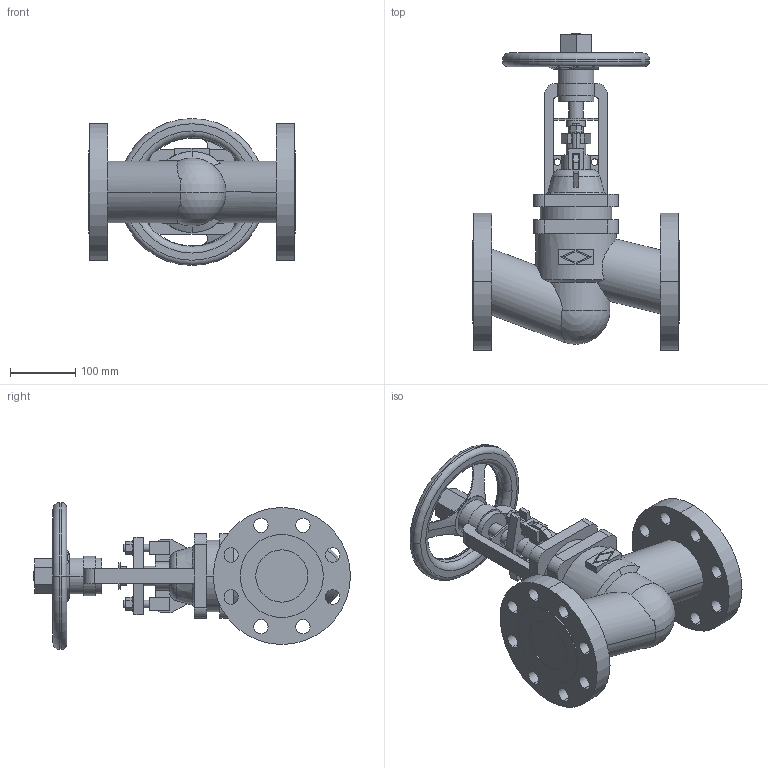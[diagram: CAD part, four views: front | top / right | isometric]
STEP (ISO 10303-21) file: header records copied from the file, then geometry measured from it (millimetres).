
FILE_DESCRIPTION(('OneSpaceDesigner STEP Export'),'2;1');
FILE_NAME('c000004199.stp','2010-04-30T 8:37:42',(''),(''),'OneSpace Designer STEP processor for AP214 (Solid Model)','OneSpace Modeling 15.50B 03-Nov-2007 (C) CoCreate Software GmbH','');
FILE_SCHEMA(('AUTOMOTIVE_DESIGN { 1 0 10303 214 1 1 1 1 }'));
Length unit declared in the file: millimetre
Products named in the file (1): 1
Bounding box: 317 x 485.3 x 225 mm (x, y, z)
Volume: 6435996.7 mm3; surface area: 499803.2 mm2
Topology: 1 solids, 1 shells, 323 faces, 878 edges, 579 vertices
Faces by surface type: plane 149, cylinder 140, torus 20, cone 12, sphere 2
Entity records: 13089 total; most frequent: CARTESIAN_POINT 2793, ORIENTED_EDGE 1752, DIRECTION 1398, EDGE_CURVE 876, VERTEX_POINT 579, AXIS2_PLACEMENT_3D 479, VECTOR 440, LINE 440
